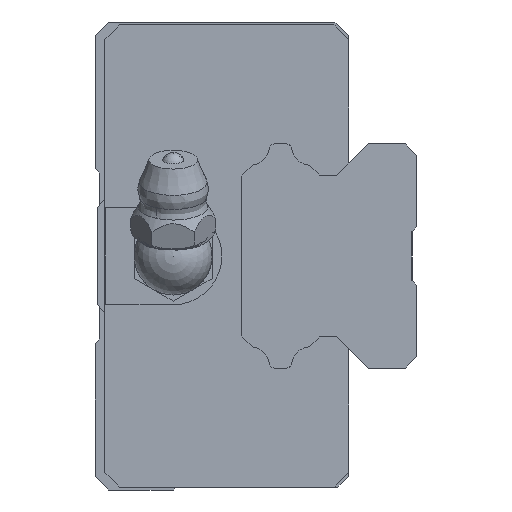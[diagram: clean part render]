
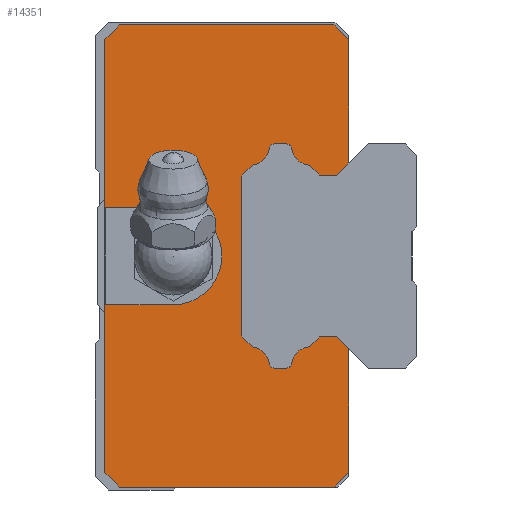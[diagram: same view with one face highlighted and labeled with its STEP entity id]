
A CAD part, left-side view. The second image highlights one B-rep face of the part: STEP entity #14351.
In plain terms, the highlighted planar face has unit normal (-1, 0, 0) as drawn and (0, 0, 1) by its records, which use the part's own axes.
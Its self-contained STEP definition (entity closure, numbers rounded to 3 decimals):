
#619=CIRCLE('',#15483,2.);
#620=CIRCLE('',#15485,0.5);
#621=CIRCLE('',#15488,0.5);
#622=CIRCLE('',#15490,2.);
#623=CIRCLE('',#15495,2.);
#624=CIRCLE('',#15497,0.5);
#625=CIRCLE('',#15500,0.5);
#626=CIRCLE('',#15502,2.);
#628=CIRCLE('',#15513,5.);
#1584=FACE_OUTER_BOUND('',#2423,.T.);
#2423=EDGE_LOOP('',(#12846,#12847,#12848,#12849,#12850,#12851,#12852,#12853,
#12854,#12855,#12856,#12857,#12858,#12859,#12860,#12861,#12862,#12863,#12864,
#12865,#12866,#12867,#12868,#12869,#12870,#12871,#12872,#12873,#12874,#12875,
#12876,#12877));
#3930=LINE('',#24797,#5479);
#3934=LINE('',#24805,#5483);
#3937=LINE('',#24810,#5486);
#3939=LINE('',#24814,#5488);
#3941=LINE('',#24818,#5490);
#3943=LINE('',#24822,#5492);
#3945=LINE('',#24826,#5494);
#3947=LINE('',#24830,#5496);
#3949=LINE('',#24834,#5498);
#3953=LINE('',#24846,#5502);
#3957=LINE('',#24858,#5506);
#3959=LINE('',#24862,#5508);
#3961=LINE('',#24866,#5510);
#3965=LINE('',#24878,#5514);
#3969=LINE('',#24890,#5518);
#3971=LINE('',#24894,#5520);
#3973=LINE('',#24898,#5522);
#3975=LINE('',#24902,#5524);
#3977=LINE('',#24906,#5526);
#3979=LINE('',#24910,#5528);
#3980=LINE('',#24912,#5529);
#3983=LINE('',#24921,#5532);
#3984=LINE('',#24924,#5533);
#5479=VECTOR('',#18966,10.);
#5483=VECTOR('',#18970,10.);
#5486=VECTOR('',#18975,10.);
#5488=VECTOR('',#18979,10.);
#5490=VECTOR('',#18983,10.);
#5492=VECTOR('',#18987,10.);
#5494=VECTOR('',#18991,10.);
#5496=VECTOR('',#18995,10.);
#5498=VECTOR('',#18999,10.);
#5502=VECTOR('',#19013,10.);
#5506=VECTOR('',#19027,10.);
#5508=VECTOR('',#19031,10.);
#5510=VECTOR('',#19035,10.);
#5514=VECTOR('',#19049,10.);
#5518=VECTOR('',#19063,10.);
#5520=VECTOR('',#19067,10.);
#5522=VECTOR('',#19071,10.);
#5524=VECTOR('',#19075,10.);
#5526=VECTOR('',#19079,10.);
#5528=VECTOR('',#19083,10.);
#5529=VECTOR('',#19086,10.);
#5532=VECTOR('',#19095,10.);
#5533=VECTOR('',#19098,10.);
#6840=VERTEX_POINT('',#24794);
#6841=VERTEX_POINT('',#24796);
#6844=VERTEX_POINT('',#24802);
#6845=VERTEX_POINT('',#24804);
#6846=VERTEX_POINT('',#24808);
#6847=VERTEX_POINT('',#24812);
#6848=VERTEX_POINT('',#24816);
#6849=VERTEX_POINT('',#24820);
#6850=VERTEX_POINT('',#24824);
#6851=VERTEX_POINT('',#24828);
#6852=VERTEX_POINT('',#24832);
#6853=VERTEX_POINT('',#24836);
#6854=VERTEX_POINT('',#24840);
#6855=VERTEX_POINT('',#24844);
#6856=VERTEX_POINT('',#24848);
#6857=VERTEX_POINT('',#24852);
#6858=VERTEX_POINT('',#24856);
#6859=VERTEX_POINT('',#24860);
#6860=VERTEX_POINT('',#24864);
#6861=VERTEX_POINT('',#24868);
#6862=VERTEX_POINT('',#24872);
#6863=VERTEX_POINT('',#24876);
#6864=VERTEX_POINT('',#24880);
#6865=VERTEX_POINT('',#24884);
#6866=VERTEX_POINT('',#24888);
#6867=VERTEX_POINT('',#24892);
#6868=VERTEX_POINT('',#24896);
#6869=VERTEX_POINT('',#24900);
#6870=VERTEX_POINT('',#24904);
#6871=VERTEX_POINT('',#24908);
#6874=VERTEX_POINT('',#24920);
#6875=VERTEX_POINT('',#24922);
#8827=EDGE_CURVE('',#6841,#6840,#3930,.T.);
#8831=EDGE_CURVE('',#6845,#6844,#3934,.T.);
#8834=EDGE_CURVE('',#6840,#6846,#3937,.T.);
#8836=EDGE_CURVE('',#6846,#6847,#3939,.T.);
#8838=EDGE_CURVE('',#6847,#6848,#3941,.T.);
#8840=EDGE_CURVE('',#6848,#6849,#3943,.T.);
#8842=EDGE_CURVE('',#6849,#6850,#3945,.T.);
#8844=EDGE_CURVE('',#6850,#6851,#3947,.T.);
#8846=EDGE_CURVE('',#6851,#6852,#3949,.T.);
#8848=EDGE_CURVE('',#6852,#6853,#619,.T.);
#8850=EDGE_CURVE('',#6853,#6854,#620,.T.);
#8852=EDGE_CURVE('',#6854,#6855,#3953,.T.);
#8854=EDGE_CURVE('',#6855,#6856,#621,.T.);
#8856=EDGE_CURVE('',#6856,#6857,#622,.T.);
#8858=EDGE_CURVE('',#6857,#6858,#3957,.T.);
#8860=EDGE_CURVE('',#6858,#6859,#3959,.T.);
#8862=EDGE_CURVE('',#6859,#6860,#3961,.T.);
#8864=EDGE_CURVE('',#6860,#6861,#623,.T.);
#8866=EDGE_CURVE('',#6861,#6862,#624,.T.);
#8868=EDGE_CURVE('',#6862,#6863,#3965,.T.);
#8870=EDGE_CURVE('',#6863,#6864,#625,.T.);
#8872=EDGE_CURVE('',#6864,#6865,#626,.T.);
#8874=EDGE_CURVE('',#6865,#6866,#3969,.T.);
#8876=EDGE_CURVE('',#6866,#6867,#3971,.T.);
#8878=EDGE_CURVE('',#6867,#6868,#3973,.T.);
#8880=EDGE_CURVE('',#6868,#6869,#3975,.T.);
#8882=EDGE_CURVE('',#6869,#6870,#3977,.T.);
#8884=EDGE_CURVE('',#6870,#6871,#3979,.T.);
#8885=EDGE_CURVE('',#6871,#6845,#3980,.T.);
#8889=EDGE_CURVE('',#6844,#6874,#3983,.T.);
#8890=EDGE_CURVE('',#6874,#6875,#628,.T.);
#8891=EDGE_CURVE('',#6875,#6841,#3984,.T.);
#12846=ORIENTED_EDGE('',*,*,#8878,.T.);
#12847=ORIENTED_EDGE('',*,*,#8880,.T.);
#12848=ORIENTED_EDGE('',*,*,#8882,.T.);
#12849=ORIENTED_EDGE('',*,*,#8884,.T.);
#12850=ORIENTED_EDGE('',*,*,#8885,.T.);
#12851=ORIENTED_EDGE('',*,*,#8831,.T.);
#12852=ORIENTED_EDGE('',*,*,#8889,.T.);
#12853=ORIENTED_EDGE('',*,*,#8890,.T.);
#12854=ORIENTED_EDGE('',*,*,#8891,.T.);
#12855=ORIENTED_EDGE('',*,*,#8827,.T.);
#12856=ORIENTED_EDGE('',*,*,#8834,.T.);
#12857=ORIENTED_EDGE('',*,*,#8836,.T.);
#12858=ORIENTED_EDGE('',*,*,#8838,.T.);
#12859=ORIENTED_EDGE('',*,*,#8840,.T.);
#12860=ORIENTED_EDGE('',*,*,#8842,.T.);
#12861=ORIENTED_EDGE('',*,*,#8844,.T.);
#12862=ORIENTED_EDGE('',*,*,#8846,.T.);
#12863=ORIENTED_EDGE('',*,*,#8848,.T.);
#12864=ORIENTED_EDGE('',*,*,#8850,.T.);
#12865=ORIENTED_EDGE('',*,*,#8852,.T.);
#12866=ORIENTED_EDGE('',*,*,#8854,.T.);
#12867=ORIENTED_EDGE('',*,*,#8856,.T.);
#12868=ORIENTED_EDGE('',*,*,#8858,.T.);
#12869=ORIENTED_EDGE('',*,*,#8860,.T.);
#12870=ORIENTED_EDGE('',*,*,#8862,.T.);
#12871=ORIENTED_EDGE('',*,*,#8864,.T.);
#12872=ORIENTED_EDGE('',*,*,#8866,.T.);
#12873=ORIENTED_EDGE('',*,*,#8868,.T.);
#12874=ORIENTED_EDGE('',*,*,#8870,.T.);
#12875=ORIENTED_EDGE('',*,*,#8872,.T.);
#12876=ORIENTED_EDGE('',*,*,#8874,.T.);
#12877=ORIENTED_EDGE('',*,*,#8876,.T.);
#13597=PLANE('',#15512);
#14351=ADVANCED_FACE('',(#1584),#13597,.T.);
#15483=AXIS2_PLACEMENT_3D('',#24838,#19003,#19004);
#15485=AXIS2_PLACEMENT_3D('',#24842,#19008,#19009);
#15488=AXIS2_PLACEMENT_3D('',#24850,#19017,#19018);
#15490=AXIS2_PLACEMENT_3D('',#24854,#19022,#19023);
#15495=AXIS2_PLACEMENT_3D('',#24870,#19039,#19040);
#15497=AXIS2_PLACEMENT_3D('',#24874,#19044,#19045);
#15500=AXIS2_PLACEMENT_3D('',#24882,#19053,#19054);
#15502=AXIS2_PLACEMENT_3D('',#24886,#19058,#19059);
#15512=AXIS2_PLACEMENT_3D('',#24919,#19093,#19094);
#15513=AXIS2_PLACEMENT_3D('',#24923,#19096,#19097);
#18966=DIRECTION('',(-1.,0.,0.));
#18970=DIRECTION('',(-1.,0.,0.));
#18975=DIRECTION('',(-0.707,-0.707,0.));
#18979=DIRECTION('',(0.,-1.,0.));
#18983=DIRECTION('',(0.707,-0.707,0.));
#18987=DIRECTION('',(1.,0.,0.));
#18991=DIRECTION('',(0.707,0.707,0.));
#18995=DIRECTION('',(0.,1.,0.));
#18999=DIRECTION('',(-0.707,0.707,0.));
#19003=DIRECTION('center_axis',(0.,0.,1.));
#19004=DIRECTION('ref_axis',(0.998,0.07,0.));
#19008=DIRECTION('center_axis',(0.,0.,-1.));
#19009=DIRECTION('ref_axis',(1.,0.,0.));
#19013=DIRECTION('',(0.,1.,0.));
#19017=DIRECTION('center_axis',(0.,0.,-1.));
#19018=DIRECTION('ref_axis',(0.12,-0.993,0.));
#19022=DIRECTION('center_axis',(0.,0.,1.));
#19023=DIRECTION('ref_axis',(0.12,-0.993,0.));
#19027=DIRECTION('',(0.707,0.707,0.));
#19031=DIRECTION('',(1.,0.,0.));
#19035=DIRECTION('',(0.707,-0.707,0.));
#19039=DIRECTION('center_axis',(0.,0.,1.));
#19040=DIRECTION('ref_axis',(-0.993,-0.118,0.));
#19044=DIRECTION('center_axis',(0.,0.,-1.));
#19045=DIRECTION('ref_axis',(-1.,0.,0.));
#19049=DIRECTION('',(0.,-1.,0.));
#19053=DIRECTION('center_axis',(0.,0.,-1.));
#19054=DIRECTION('ref_axis',(-0.12,0.993,0.));
#19058=DIRECTION('center_axis',(0.,0.,1.));
#19059=DIRECTION('ref_axis',(-0.12,0.993,0.));
#19063=DIRECTION('',(-0.707,-0.707,0.));
#19067=DIRECTION('',(0.,-1.,0.));
#19071=DIRECTION('',(0.707,-0.707,0.));
#19075=DIRECTION('',(1.,0.,0.));
#19079=DIRECTION('',(0.707,0.707,0.));
#19083=DIRECTION('',(0.,1.,0.));
#19086=DIRECTION('',(-0.707,0.707,0.));
#19093=DIRECTION('center_axis',(0.,0.,1.));
#19094=DIRECTION('ref_axis',(1.,0.,0.));
#19095=DIRECTION('',(0.,-1.,0.));
#19096=DIRECTION('center_axis',(0.,0.,-1.));
#19097=DIRECTION('ref_axis',(1.,0.,0.));
#19098=DIRECTION('',(0.,1.,0.));
#24794=CARTESIAN_POINT('',(-22.2,14.,11.8));
#24796=CARTESIAN_POINT('',(-5.,14.,11.8));
#24797=CARTESIAN_POINT('',(-5.,14.,11.8));
#24802=CARTESIAN_POINT('',(5.,14.,11.8));
#24804=CARTESIAN_POINT('',(22.2,14.,11.8));
#24805=CARTESIAN_POINT('',(22.2,14.,11.8));
#24808=CARTESIAN_POINT('',(-23.7,12.5,11.8));
#24810=CARTESIAN_POINT('',(-22.2,14.,11.8));
#24812=CARTESIAN_POINT('',(-23.7,-9.5,11.8));
#24814=CARTESIAN_POINT('',(-23.7,12.5,11.8));
#24816=CARTESIAN_POINT('',(-22.2,-11.,11.8));
#24818=CARTESIAN_POINT('',(-23.7,-9.5,11.8));
#24820=CARTESIAN_POINT('',(-9.5,-11.,11.8));
#24822=CARTESIAN_POINT('',(-22.2,-11.,11.8));
#24824=CARTESIAN_POINT('',(-8.3,-9.8,11.8));
#24826=CARTESIAN_POINT('',(-9.5,-11.,11.8));
#24828=CARTESIAN_POINT('',(-8.3,-8.,11.8));
#24830=CARTESIAN_POINT('',(-8.3,-9.8,11.8));
#24832=CARTESIAN_POINT('',(-9.305,-6.995,11.8));
#24834=CARTESIAN_POINT('',(-8.3,-8.,11.8));
#24836=CARTESIAN_POINT('',(-11.06,-5.15,11.8));
#24838=CARTESIAN_POINT('Origin',(-11.3,-7.136,11.8));
#24840=CARTESIAN_POINT('',(-11.5,-4.654,11.8));
#24842=CARTESIAN_POINT('Origin',(-11.,-4.654,11.8));
#24844=CARTESIAN_POINT('',(-11.5,-3.365,11.8));
#24846=CARTESIAN_POINT('',(-11.5,-4.654,11.8));
#24848=CARTESIAN_POINT('',(-11.06,-2.868,11.8));
#24850=CARTESIAN_POINT('Origin',(-11.,-3.365,11.8));
#24852=CARTESIAN_POINT('',(-9.314,-1.118,11.8));
#24854=CARTESIAN_POINT('Origin',(-11.3,-0.883,11.8));
#24856=CARTESIAN_POINT('',(-8.196,0.,11.8));
#24858=CARTESIAN_POINT('',(-9.314,-1.118,11.8));
#24860=CARTESIAN_POINT('',(8.196,0.,11.8));
#24862=CARTESIAN_POINT('',(-8.196,0.,11.8));
#24864=CARTESIAN_POINT('',(9.314,-1.118,11.8));
#24866=CARTESIAN_POINT('',(8.196,0.,11.8));
#24868=CARTESIAN_POINT('',(11.06,-2.868,11.8));
#24870=CARTESIAN_POINT('Origin',(11.3,-0.883,11.8));
#24872=CARTESIAN_POINT('',(11.5,-3.365,11.8));
#24874=CARTESIAN_POINT('Origin',(11.,-3.365,11.8));
#24876=CARTESIAN_POINT('',(11.5,-4.654,11.8));
#24878=CARTESIAN_POINT('',(11.5,-3.365,11.8));
#24880=CARTESIAN_POINT('',(11.06,-5.15,11.8));
#24882=CARTESIAN_POINT('Origin',(11.,-4.654,11.8));
#24884=CARTESIAN_POINT('',(9.305,-6.995,11.8));
#24886=CARTESIAN_POINT('Origin',(11.3,-7.136,11.8));
#24888=CARTESIAN_POINT('',(8.3,-8.,11.8));
#24890=CARTESIAN_POINT('',(9.305,-6.995,11.8));
#24892=CARTESIAN_POINT('',(8.3,-9.8,11.8));
#24894=CARTESIAN_POINT('',(8.3,-8.,11.8));
#24896=CARTESIAN_POINT('',(9.5,-11.,11.8));
#24898=CARTESIAN_POINT('',(8.3,-9.8,11.8));
#24900=CARTESIAN_POINT('',(22.2,-11.,11.8));
#24902=CARTESIAN_POINT('',(9.5,-11.,11.8));
#24904=CARTESIAN_POINT('',(23.7,-9.5,11.8));
#24906=CARTESIAN_POINT('',(22.2,-11.,11.8));
#24908=CARTESIAN_POINT('',(23.7,12.5,11.8));
#24910=CARTESIAN_POINT('',(23.7,-9.5,11.8));
#24912=CARTESIAN_POINT('',(23.7,12.5,11.8));
#24919=CARTESIAN_POINT('Origin',(0.,1.832,
11.8));
#24920=CARTESIAN_POINT('',(5.,7.,11.8));
#24921=CARTESIAN_POINT('',(5.,14.,11.8));
#24922=CARTESIAN_POINT('',(-5.,7.,11.8));
#24923=CARTESIAN_POINT('Origin',(0.,7.,11.8));
#24924=CARTESIAN_POINT('',(-5.,7.,11.8));
